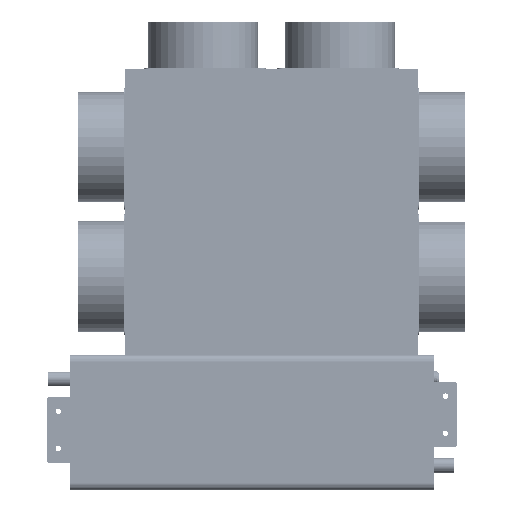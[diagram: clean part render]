
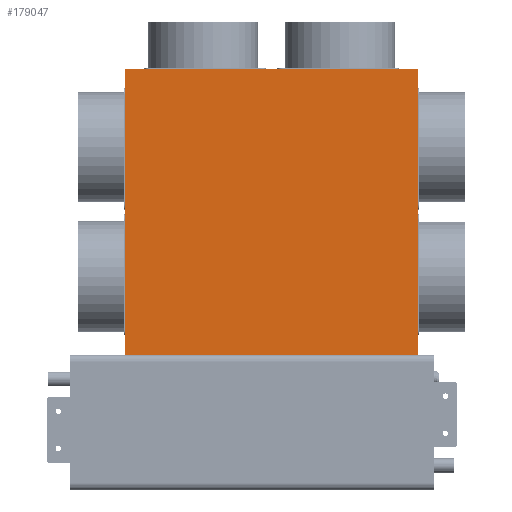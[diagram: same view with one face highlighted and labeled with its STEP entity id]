
A CAD part, left-side view. The second image highlights one B-rep face of the part: STEP entity #179047.
In plain terms, the highlighted planar face has unit normal (-1, 0, 0) as drawn and (0, 0, 1) by its records, which use the part's own axes.
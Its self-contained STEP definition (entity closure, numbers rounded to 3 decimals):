
#11173=PLANE('',#192366);
#30051=LINE('',#323654,#49320);
#30054=LINE('',#323660,#49323);
#30057=LINE('',#323666,#49326);
#30060=LINE('',#323670,#49329);
#49320=VECTOR('',#236330,10.);
#49323=VECTOR('',#236335,10.);
#49326=VECTOR('',#236340,10.);
#49329=VECTOR('',#236345,10.);
#59508=FACE_OUTER_BOUND('',#70448,.T.);
#70448=EDGE_LOOP('',(#166692,#166693,#166694,#166695));
#92683=VERTEX_POINT('',#323651);
#92684=VERTEX_POINT('',#323653);
#92686=VERTEX_POINT('',#323659);
#92688=VERTEX_POINT('',#323665);
#117541=EDGE_CURVE('',#92684,#92683,#30051,.T.);
#117544=EDGE_CURVE('',#92686,#92684,#30054,.T.);
#117547=EDGE_CURVE('',#92688,#92686,#30057,.T.);
#117550=EDGE_CURVE('',#92683,#92688,#30060,.T.);
#166692=ORIENTED_EDGE('',*,*,#117550,.T.);
#166693=ORIENTED_EDGE('',*,*,#117547,.T.);
#166694=ORIENTED_EDGE('',*,*,#117544,.T.);
#166695=ORIENTED_EDGE('',*,*,#117541,.T.);
#179047=ADVANCED_FACE('',(#59508),#11173,.T.);
#192366=AXIS2_PLACEMENT_3D('',#323671,#236346,#236347);
#236330=DIRECTION('',(-1.,0.,0.));
#236335=DIRECTION('',(0.,1.,0.));
#236340=DIRECTION('',(1.,0.,0.));
#236345=DIRECTION('',(0.,-1.,0.));
#236346=DIRECTION('center_axis',(0.,0.,1.));
#236347=DIRECTION('ref_axis',(1.,0.,0.));
#323651=CARTESIAN_POINT('',(-147.096,157.25,6.));
#323653=CARTESIAN_POINT('',(159.596,157.25,6.));
#323654=CARTESIAN_POINT('',(159.596,157.25,6.));
#323659=CARTESIAN_POINT('',(159.596,-157.25,6.));
#323660=CARTESIAN_POINT('',(159.596,-157.25,6.));
#323665=CARTESIAN_POINT('',(-147.096,-157.25,6.));
#323666=CARTESIAN_POINT('',(-147.096,-157.25,6.));
#323670=CARTESIAN_POINT('',(-147.096,157.25,6.));
#323671=CARTESIAN_POINT('Origin',(6.25,0.,
6.));
